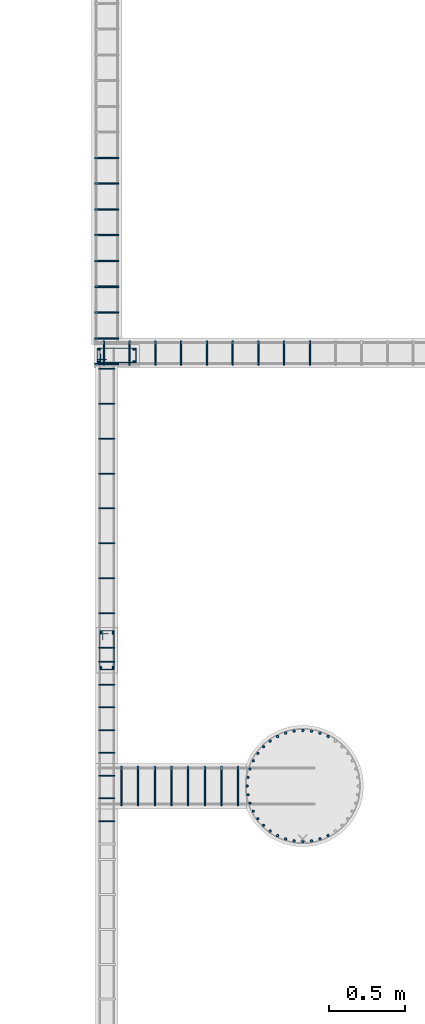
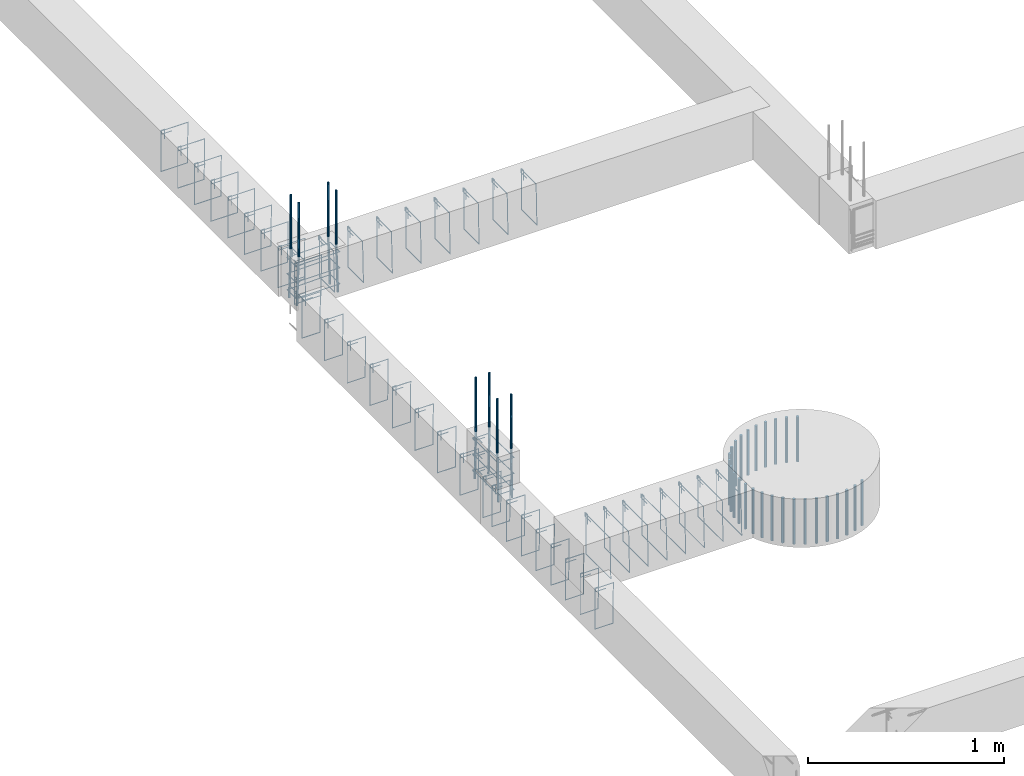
# One storey, part 39 of 150: 84 reinforcing bars.
"""IFC4 building model written with IfcOpenShell, lengths in centimetres."""

from ifc_helpers import new_model, entity, si_unit, derived_unit, frame, origin_with_axes, place, context, project, spatial, source, transform, mapped, element, save


model = new_model("IFC4")

# Units and contexts
model_context = context("Model", 3, precision=1e-05, world=origin_with_axes(), identifier="Body")
ifc_project = project(units=[si_unit("LENGTHUNIT", "METRE", prefix="CENTI"), si_unit("VOLUMEUNIT", "CUBIC_METRE"), si_unit("AREAUNIT", "SQUARE_METRE"), si_unit("POWERUNIT", "WATT"), si_unit("LUMINOUSFLUXUNIT", "LUMEN"), si_unit("ELECTRICCURRENTUNIT", "AMPERE"), si_unit("PRESSUREUNIT", "PASCAL", prefix="KILO"), si_unit("MASSUNIT", "GRAM", prefix="KILO"), si_unit("PLANEANGLEUNIT", "RADIAN"), derived_unit("VOLUMETRICFLOWRATEUNIT", [(si_unit("LENGTHUNIT", "METRE"), 3), (si_unit("TIMEUNIT", "SECOND"), -1)])], contexts=[model_context])

# Site, building, storey
site_placement = place(None, frame((-4000.0, 0.0, 0.0), z_axis=(0.0, 0.0, 1.0), x_axis=(1.0, 0.0, 0.0)))
site = spatial("IfcSite", under=ifc_project, at=site_placement, Name="PADRÃO")
building_placement = place(site_placement, frame((0.0, 0.0, -14.0)))
building = spatial("IfcBuilding", under=site, at=building_placement, Name="CRECHE PRÉ-ESCOLA TIPO 2")
placement = place(building_placement, origin_with_axes())
storey_placement = place(placement, frame((0.0, 0.0, 30.0), z_axis=(0.0, 0.0, 1.0), x_axis=(1.0, 0.0, 0.0)))
storey = spatial("IfcBuildingStorey", under=building, at=storey_placement, Name="VIGA BALDRAME", CompositionType="ELEMENT", Elevation=16.0)

# Reinforcing bars
shared_shape_1 = source(origin_with_axes(), model_context, "Body", "AdvancedSweptSolid", [
    entity("IfcSweptDiskSolid", entity("IfcCompositeCurve", [entity("IfcCompositeCurveSegment", "CONTINUOUS", True, entity("IfcPolyline", [entity("IfcCartesianPoint", [4.25, 21.75, 0.0]), entity("IfcCartesianPoint", [4.25, 27.75, 0.0])])), entity("IfcCompositeCurveSegment", "CONTINUOUS", True, entity("IfcPolyline", [entity("IfcCartesianPoint", [4.25, 27.75, 0.0]), entity("IfcCartesianPoint", [2.25, 27.75, 0.0])])), entity("IfcCompositeCurveSegment", "CONTINUOUS", True, entity("IfcPolyline", [entity("IfcCartesianPoint", [2.25, 27.75, 0.0]), entity("IfcCartesianPoint", [2.25, 2.25, 0.0])])), entity("IfcCompositeCurveSegment", "CONTINUOUS", True, entity("IfcPolyline", [entity("IfcCartesianPoint", [2.25, 2.25, 0.0]), entity("IfcCartesianPoint", [11.75, 2.25, 0.0])])), entity("IfcCompositeCurveSegment", "CONTINUOUS", True, entity("IfcPolyline", [entity("IfcCartesianPoint", [11.75, 2.25, 0.0]), entity("IfcCartesianPoint", [11.75, 27.75, -0.5])])), entity("IfcCompositeCurveSegment", "CONTINUOUS", True, entity("IfcPolyline", [entity("IfcCartesianPoint", [11.75, 27.75, -0.5]), entity("IfcCartesianPoint", [2.25, 27.75, -0.5])])), entity("IfcCompositeCurveSegment", "CONTINUOUS", True, entity("IfcPolyline", [entity("IfcCartesianPoint", [2.25, 27.75, -0.5]), entity("IfcCartesianPoint", [2.25, 25.75, -0.5])])), entity("IfcCompositeCurveSegment", "CONTINUOUS", True, entity("IfcPolyline", [entity("IfcCartesianPoint", [2.25, 25.75, -0.5]), entity("IfcCartesianPoint", [8.25, 25.75, -0.5])]))], False), 0.25),
])
for number, where, z_axis, x_axis, name in (
    (1, (2248.98, 304.02, -25.0), (0.0, 0.0, 1.0), (1.0, 0.0, 0.0), "P150 - Estribo"),
    (2, (2248.98, 304.02, -15.0), (0.0, 0.0, 1.0), (1.0, 0.0, 0.0), "P150 - Estribo"),
    (3, (2248.98, 304.02, -5.0), (0.0, 0.0, 1.0), (1.0, 0.0, 0.0), "P150 - Estribo"),
):
    element("IfcReinforcingBar", number, at=place(storey_placement, frame(where, z_axis=z_axis, x_axis=x_axis)), inside=storey, Name=name, BarLength=0.0, CrossSectionArea=1.9634954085e-05, NominalDiameter=0.5, PredefinedType="MAIN", context=model_context, shape_type="MappedRepresentation", body=[
        mapped(shared_shape_1, transform((0.0, 0.0, 0.0), scale=1.0)),
    ])
shared_shape_2 = source(origin_with_axes(), model_context, "Body", "AdvancedSweptSolid", [
    entity("IfcSweptDiskSolid", entity("IfcCompositeCurve", [entity("IfcCompositeCurveSegment", "CONTINUOUS", True, entity("IfcPolyline", [entity("IfcCartesianPoint", [4.25, 21.75, 0.0]), entity("IfcCartesianPoint", [4.25, 27.75, 0.0])])), entity("IfcCompositeCurveSegment", "CONTINUOUS", True, entity("IfcPolyline", [entity("IfcCartesianPoint", [4.25, 27.75, 0.0]), entity("IfcCartesianPoint", [2.25, 27.75, 0.0])])), entity("IfcCompositeCurveSegment", "CONTINUOUS", True, entity("IfcPolyline", [entity("IfcCartesianPoint", [2.25, 27.75, 0.0]), entity("IfcCartesianPoint", [2.25, 2.25, 0.0])])), entity("IfcCompositeCurveSegment", "CONTINUOUS", True, entity("IfcPolyline", [entity("IfcCartesianPoint", [2.25, 2.25, 0.0]), entity("IfcCartesianPoint", [11.75, 2.25, 0.0])])), entity("IfcCompositeCurveSegment", "CONTINUOUS", True, entity("IfcPolyline", [entity("IfcCartesianPoint", [11.75, 2.25, 0.0]), entity("IfcCartesianPoint", [11.75, 27.75, -0.5])])), entity("IfcCompositeCurveSegment", "CONTINUOUS", True, entity("IfcPolyline", [entity("IfcCartesianPoint", [11.75, 27.75, -0.5]), entity("IfcCartesianPoint", [2.25, 27.75, -0.5])])), entity("IfcCompositeCurveSegment", "CONTINUOUS", True, entity("IfcPolyline", [entity("IfcCartesianPoint", [2.25, 27.75, -0.5]), entity("IfcCartesianPoint", [2.25, 25.75, -0.5])])), entity("IfcCompositeCurveSegment", "CONTINUOUS", True, entity("IfcPolyline", [entity("IfcCartesianPoint", [2.25, 25.75, -0.5]), entity("IfcCartesianPoint", [8.25, 25.75, -0.5])]))], False), 0.25),
])
for number, where, z_axis, x_axis, name in (
    (4, (2277.48, 506.52, -5.0), (0.0, 0.0, 1.0), (0.0, 1.0, 0.0), "P139 - Estribo"),
    (5, (2277.48, 506.52, -15.0), (0.0, 0.0, 1.0), (0.0, 1.0, 0.0), "P139 - Estribo"),
    (6, (2277.48, 506.52, -25.0), (0.0, 0.0, 1.0), (0.0, 1.0, 0.0), "P139 - Estribo"),
):
    element("IfcReinforcingBar", number, at=place(storey_placement, frame(where, z_axis=z_axis, x_axis=x_axis)), inside=storey, Name=name, BarLength=0.0, CrossSectionArea=1.9634954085e-05, NominalDiameter=0.5, PredefinedType="MAIN", context=model_context, shape_type="MappedRepresentation", body=[
        mapped(shared_shape_2, transform((0.0, 0.0, 0.0), scale=1.0)),
    ])
shared_shape_3 = source(origin_with_axes(), model_context, "Body", "AdvancedSweptSolid", [
    entity("IfcSweptDiskSolid", entity("IfcCompositeCurve", [entity("IfcCompositeCurveSegment", "CONTINUOUS", True, entity("IfcPolyline", [entity("IfcCartesianPoint", [2.0, -6.0, 0.0]), entity("IfcCartesianPoint", [2.0, 0.0, 0.0])])), entity("IfcCompositeCurveSegment", "CONTINUOUS", True, entity("IfcPolyline", [entity("IfcCartesianPoint", [2.0, 0.0, 0.0]), entity("IfcCartesianPoint", [0.0, 0.0, 0.0])])), entity("IfcCompositeCurveSegment", "CONTINUOUS", True, entity("IfcPolyline", [entity("IfcCartesianPoint", [0.0, 0.0, 0.0]), entity("IfcCartesianPoint", [0.0, -25.5, 0.0])])), entity("IfcCompositeCurveSegment", "CONTINUOUS", True, entity("IfcPolyline", [entity("IfcCartesianPoint", [0.0, -25.5, 0.0]), entity("IfcCartesianPoint", [15.5, -25.5, 0.0])])), entity("IfcCompositeCurveSegment", "CONTINUOUS", True, entity("IfcPolyline", [entity("IfcCartesianPoint", [15.5, -25.5, 0.0]), entity("IfcCartesianPoint", [15.5, 0.0, 0.5])])), entity("IfcCompositeCurveSegment", "CONTINUOUS", True, entity("IfcPolyline", [entity("IfcCartesianPoint", [15.5, 0.0, 0.5]), entity("IfcCartesianPoint", [0.0, 0.0, 0.5])])), entity("IfcCompositeCurveSegment", "CONTINUOUS", True, entity("IfcPolyline", [entity("IfcCartesianPoint", [0.0, 0.0, 0.5]), entity("IfcCartesianPoint", [0.0, -2.0, 0.5])])), entity("IfcCompositeCurveSegment", "CONTINUOUS", True, entity("IfcPolyline", [entity("IfcCartesianPoint", [0.0, -2.0, 0.5]), entity("IfcCartesianPoint", [6.0, -2.0, 0.5])]))], False), 0.25),
])
for number, where, z_axis, x_axis, name in (
    (7, (2288.24, 522.77, -2.25), (-1.0, 0.0, 0.0), (0.0, -1.0, 0.0), "V151 - Estribo"),
    (8, (2322.24, 522.77, -2.25), (-1.0, 0.0, 0.0), (0.0, -1.0, 0.0), "V151 - Estribo"),
    (9, (2305.24, 522.77, -2.25), (-1.0, 0.0, 0.0), (0.0, -1.0, 0.0), "V151 - Estribo"),
    (10, (2356.24, 522.77, -2.25), (-1.0, 0.0, 0.0), (0.0, -1.0, 0.0), "V151 - Estribo"),
    (11, (2373.24, 522.77, -2.25), (-1.0, 0.0, 0.0), (0.0, -1.0, 0.0), "V151 - Estribo"),
    (12, (2390.24, 522.77, -2.25), (-1.0, 0.0, 0.0), (0.0, -1.0, 0.0), "V151 - Estribo"),
    (13, (2254.24, 522.77, -2.25), (-1.0, 0.0, 0.0), (0.0, -1.0, 0.0), "V151 - Estribo"),
    (14, (2339.24, 522.77, -2.25), (-1.0, 0.0, 0.0), (0.0, -1.0, 0.0), "V151 - Estribo"),
    (15, (2271.24, 522.77, -2.25), (-1.0, 0.0, 0.0), (0.0, -1.0, 0.0), "V151 - Estribo"),
):
    element("IfcReinforcingBar", number, at=place(storey_placement, frame(where, z_axis=z_axis, x_axis=x_axis)), inside=storey, Name=name, BarLength=0.0, CrossSectionArea=1.9634954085e-05, NominalDiameter=0.5, PredefinedType="MAIN", context=model_context, shape_type="MappedRepresentation", body=[
        mapped(shared_shape_3, transform((0.0, 0.0, 0.0), scale=1.0)),
    ])
shared_shape_4 = source(origin_with_axes(), model_context, "Body", "AdvancedSweptSolid", [
    entity("IfcSweptDiskSolid", entity("IfcCompositeCurve", [entity("IfcCompositeCurveSegment", "CONTINUOUS", True, entity("IfcPolyline", [entity("IfcCartesianPoint", [2.0, -6.0, 0.0]), entity("IfcCartesianPoint", [2.0, 0.0, 0.0])])), entity("IfcCompositeCurveSegment", "CONTINUOUS", True, entity("IfcPolyline", [entity("IfcCartesianPoint", [2.0, 0.0, 0.0]), entity("IfcCartesianPoint", [0.0, 0.0, 0.0])])), entity("IfcCompositeCurveSegment", "CONTINUOUS", True, entity("IfcPolyline", [entity("IfcCartesianPoint", [0.0, 0.0, 0.0]), entity("IfcCartesianPoint", [0.0, -25.5, 0.0])])), entity("IfcCompositeCurveSegment", "CONTINUOUS", True, entity("IfcPolyline", [entity("IfcCartesianPoint", [0.0, -25.5, 0.0]), entity("IfcCartesianPoint", [15.5, -25.5, 0.0])])), entity("IfcCompositeCurveSegment", "CONTINUOUS", True, entity("IfcPolyline", [entity("IfcCartesianPoint", [15.5, -25.5, 0.0]), entity("IfcCartesianPoint", [15.5, 0.0, 0.5])])), entity("IfcCompositeCurveSegment", "CONTINUOUS", True, entity("IfcPolyline", [entity("IfcCartesianPoint", [15.5, 0.0, 0.5]), entity("IfcCartesianPoint", [0.0, 0.0, 0.5])])), entity("IfcCompositeCurveSegment", "CONTINUOUS", True, entity("IfcPolyline", [entity("IfcCartesianPoint", [0.0, 0.0, 0.5]), entity("IfcCartesianPoint", [0.0, -2.0, 0.5])])), entity("IfcCompositeCurveSegment", "CONTINUOUS", True, entity("IfcPolyline", [entity("IfcCartesianPoint", [0.0, -2.0, 0.5]), entity("IfcCartesianPoint", [6.0, -2.0, 0.5])]))], False), 0.25),
])
for number, where, z_axis, x_axis, name in (
    (16, (2248.22957912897, 508.020261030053, -2.25), (-3.367003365e-05, -1.0, 0.0), (1.0, -3.367003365e-05, 0.0), "V190 - Estribo"),
    (17, (2248.23015151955, 525.020261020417, -2.25), (-3.367003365e-05, -1.0, 0.0), (1.0, -3.367003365e-05, 0.0), "V190 - Estribo"),
    (18, (2248.23072391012, 542.020261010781, -2.25), (-3.367003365e-05, -1.0, 0.0), (1.0, -3.367003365e-05, 0.0), "V190 - Estribo"),
    (19, (2248.23129630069, 559.020261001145, -2.25), (-3.367003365e-05, -1.0, 0.0), (1.0, -3.367003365e-05, 0.0), "V190 - Estribo"),
    (20, (2248.23186869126, 576.020260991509, -2.25), (-3.367003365e-05, -1.0, 0.0), (1.0, -3.367003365e-05, 0.0), "V190 - Estribo"),
    (21, (2248.23244108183, 593.020260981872, -2.25), (-3.367003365e-05, -1.0, 0.0), (1.0, -3.367003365e-05, 0.0), "V190 - Estribo"),
    (22, (2248.23301347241, 610.020260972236, -2.25), (-3.367003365e-05, -1.0, 0.0), (1.0, -3.367003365e-05, 0.0), "V190 - Estribo"),
    (23, (2248.23358586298, 627.0202609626, -2.25), (-3.367003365e-05, -1.0, 0.0), (1.0, -3.367003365e-05, 0.0), "V190 - Estribo"),
    (24, (2248.23415825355, 644.020260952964, -2.25), (-3.367003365e-05, -1.0, 0.0), (1.0, -3.367003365e-05, 0.0), "V190 - Estribo"),
):
    element("IfcReinforcingBar", number, at=place(storey_placement, frame(where, z_axis=z_axis, x_axis=x_axis)), inside=storey, Name=name, BarLength=0.0, CrossSectionArea=1.9634954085e-05, NominalDiameter=0.5, PredefinedType="MAIN", context=model_context, shape_type="MappedRepresentation", body=[
        mapped(shared_shape_4, transform((0.0, 0.0, 0.0), scale=1.0)),
    ])
shared_shape_5 = source(origin_with_axes(), model_context, "Body", "AdvancedSweptSolid", [
    entity("IfcSweptDiskSolid", entity("IfcCompositeCurve", [entity("IfcCompositeCurveSegment", "CONTINUOUS", True, entity("IfcPolyline", [entity("IfcCartesianPoint", [2.0, -6.0, 0.0]), entity("IfcCartesianPoint", [2.0, 0.0, 0.0])])), entity("IfcCompositeCurveSegment", "CONTINUOUS", True, entity("IfcPolyline", [entity("IfcCartesianPoint", [2.0, 0.0, 0.0]), entity("IfcCartesianPoint", [0.0, 0.0, 0.0])])), entity("IfcCompositeCurveSegment", "CONTINUOUS", True, entity("IfcPolyline", [entity("IfcCartesianPoint", [0.0, 0.0, 0.0]), entity("IfcCartesianPoint", [0.0, -25.5, 0.0])])), entity("IfcCompositeCurveSegment", "CONTINUOUS", True, entity("IfcPolyline", [entity("IfcCartesianPoint", [0.0, -25.5, 0.0]), entity("IfcCartesianPoint", [10.5, -25.5, 0.0])])), entity("IfcCompositeCurveSegment", "CONTINUOUS", True, entity("IfcPolyline", [entity("IfcCartesianPoint", [10.5, -25.5, 0.0]), entity("IfcCartesianPoint", [10.5, 0.0, 0.5])])), entity("IfcCompositeCurveSegment", "CONTINUOUS", True, entity("IfcPolyline", [entity("IfcCartesianPoint", [10.5, 0.0, 0.5]), entity("IfcCartesianPoint", [0.0, 0.0, 0.5])])), entity("IfcCompositeCurveSegment", "CONTINUOUS", True, entity("IfcPolyline", [entity("IfcCartesianPoint", [0.0, 0.0, 0.5]), entity("IfcCartesianPoint", [0.0, -2.0, 0.5])])), entity("IfcCompositeCurveSegment", "CONTINUOUS", True, entity("IfcPolyline", [entity("IfcCartesianPoint", [0.0, -2.0, 0.5]), entity("IfcCartesianPoint", [6.0, -2.0, 0.5])]))], False), 0.25),
])
for number, where, z_axis, x_axis, name in (
    (25, (2250.73, 221.52, -22.25), (0.0, -1.0, 0.0), (1.0, 0.0, 0.0), "V189 - Estribo"),
    (26, (2250.73, 251.52, -22.25), (0.0, -1.0, 0.0), (1.0, 0.0, 0.0), "V189 - Estribo"),
    (27, (2250.73, 266.52, -22.25), (0.0, -1.0, 0.0), (1.0, 0.0, 0.0), "V189 - Estribo"),
    (28, (2250.73, 281.52, -22.25), (0.0, -1.0, 0.0), (1.0, 0.0, 0.0), "V189 - Estribo"),
    (29, (2250.73, 296.52, -22.25), (0.0, -1.0, 0.0), (1.0, 0.0, 0.0), "V189 - Estribo"),
    (30, (2250.73, 311.52, -22.25), (0.0, -1.0, 0.0), (1.0, 0.0, 0.0), "V189 - Estribo"),
    (31, (2250.73, 236.52, -22.25), (0.0, -1.0, 0.0), (1.0, 0.0, 0.0), "V189 - Estribo"),
    (32, (2250.73, 206.52, -22.25), (0.0, -1.0, 0.0), (1.0, 0.0, 0.0), "V189 - Estribo"),
):
    element("IfcReinforcingBar", number, at=place(storey_placement, frame(where, z_axis=z_axis, x_axis=x_axis)), inside=storey, Name=name, BarLength=0.0, CrossSectionArea=1.9634954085e-05, NominalDiameter=0.5, PredefinedType="MAIN", context=model_context, shape_type="MappedRepresentation", body=[
        mapped(shared_shape_5, transform((0.0, 0.0, 0.0), scale=1.0)),
    ])
shared_shape_6 = source(origin_with_axes(), model_context, "Body", "AdvancedSweptSolid", [
    entity("IfcSweptDiskSolid", entity("IfcCompositeCurve", [entity("IfcCompositeCurveSegment", "CONTINUOUS", True, entity("IfcPolyline", [entity("IfcCartesianPoint", [2.0, -6.0, 0.0]), entity("IfcCartesianPoint", [2.0, 0.0, 0.0])])), entity("IfcCompositeCurveSegment", "CONTINUOUS", True, entity("IfcPolyline", [entity("IfcCartesianPoint", [2.0, 0.0, 0.0]), entity("IfcCartesianPoint", [0.0, 0.0, 0.0])])), entity("IfcCompositeCurveSegment", "CONTINUOUS", True, entity("IfcPolyline", [entity("IfcCartesianPoint", [0.0, 0.0, 0.0]), entity("IfcCartesianPoint", [0.0, -25.5, 0.0])])), entity("IfcCompositeCurveSegment", "CONTINUOUS", True, entity("IfcPolyline", [entity("IfcCartesianPoint", [0.0, -25.5, 0.0]), entity("IfcCartesianPoint", [10.5, -25.5, 0.0])])), entity("IfcCompositeCurveSegment", "CONTINUOUS", True, entity("IfcPolyline", [entity("IfcCartesianPoint", [10.5, -25.5, 0.0]), entity("IfcCartesianPoint", [10.5, 0.0, 0.5])])), entity("IfcCompositeCurveSegment", "CONTINUOUS", True, entity("IfcPolyline", [entity("IfcCartesianPoint", [10.5, 0.0, 0.5]), entity("IfcCartesianPoint", [0.0, 0.0, 0.5])])), entity("IfcCompositeCurveSegment", "CONTINUOUS", True, entity("IfcPolyline", [entity("IfcCartesianPoint", [0.0, 0.0, 0.5]), entity("IfcCartesianPoint", [0.0, -2.0, 0.5])])), entity("IfcCompositeCurveSegment", "CONTINUOUS", True, entity("IfcPolyline", [entity("IfcCartesianPoint", [0.0, -2.0, 0.5]), entity("IfcCartesianPoint", [6.0, -2.0, 0.5])]))], False), 0.25),
])
for number, where, z_axis, x_axis, name in (
    (33, (2250.73, 481.77, -22.25), (0.0, -1.0, 0.0), (1.0, 0.0, 0.0), "V189 - Estribo"),
    (34, (2250.73, 504.77, -22.25), (0.0, -1.0, 0.0), (1.0, 0.0, 0.0), "V189 - Estribo"),
    (35, (2250.73, 458.77, -22.25), (0.0, -1.0, 0.0), (1.0, 0.0, 0.0), "V189 - Estribo"),
    (36, (2250.73, 320.77, -22.25), (0.0, -1.0, 0.0), (1.0, 0.0, 0.0), "V189 - Estribo"),
    (37, (2250.73, 343.77, -22.25), (0.0, -1.0, 0.0), (1.0, 0.0, 0.0), "V189 - Estribo"),
    (38, (2250.73, 366.77, -22.25), (0.0, -1.0, 0.0), (1.0, 0.0, 0.0), "V189 - Estribo"),
    (39, (2250.73, 389.77, -22.25), (0.0, -1.0, 0.0), (1.0, 0.0, 0.0), "V189 - Estribo"),
    (40, (2250.73, 412.77, -22.25), (0.0, -1.0, 0.0), (1.0, 0.0, 0.0), "V189 - Estribo"),
    (41, (2250.73, 435.77, -22.25), (0.0, -1.0, 0.0), (1.0, 0.0, 0.0), "V189 - Estribo"),
):
    element("IfcReinforcingBar", number, at=place(storey_placement, frame(where, z_axis=z_axis, x_axis=x_axis)), inside=storey, Name=name, BarLength=0.0, CrossSectionArea=1.9634954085e-05, NominalDiameter=0.5, PredefinedType="MAIN", context=model_context, shape_type="MappedRepresentation", body=[
        mapped(shared_shape_6, transform((0.0, 0.0, 0.0), scale=1.0)),
    ])
shared_shape_7 = source(origin_with_axes(), model_context, "Body", "AdvancedSweptSolid", [
    entity("IfcSweptDiskSolid", entity("IfcCompositeCurve", [entity("IfcCompositeCurveSegment", "CONTINUOUS", True, entity("IfcPolyline", [entity("IfcCartesianPoint", [2.0, -6.0, 0.0]), entity("IfcCartesianPoint", [2.0, 0.0, 0.0])])), entity("IfcCompositeCurveSegment", "CONTINUOUS", True, entity("IfcPolyline", [entity("IfcCartesianPoint", [2.0, 0.0, 0.0]), entity("IfcCartesianPoint", [0.0, 0.0, 0.0])])), entity("IfcCompositeCurveSegment", "CONTINUOUS", True, entity("IfcPolyline", [entity("IfcCartesianPoint", [0.0, 0.0, 0.0]), entity("IfcCartesianPoint", [0.0, -25.5, 0.0])])), entity("IfcCompositeCurveSegment", "CONTINUOUS", True, entity("IfcPolyline", [entity("IfcCartesianPoint", [0.0, -25.5, 0.0]), entity("IfcCartesianPoint", [25.5, -25.5, 0.0])])), entity("IfcCompositeCurveSegment", "CONTINUOUS", True, entity("IfcPolyline", [entity("IfcCartesianPoint", [25.5, -25.5, 0.0]), entity("IfcCartesianPoint", [25.5, 0.0, 0.5])])), entity("IfcCompositeCurveSegment", "CONTINUOUS", True, entity("IfcPolyline", [entity("IfcCartesianPoint", [25.5, 0.0, 0.5]), entity("IfcCartesianPoint", [0.0, 0.0, 0.5])])), entity("IfcCompositeCurveSegment", "CONTINUOUS", True, entity("IfcPolyline", [entity("IfcCartesianPoint", [0.0, 0.0, 0.5]), entity("IfcCartesianPoint", [0.0, -2.0, 0.5])])), entity("IfcCompositeCurveSegment", "CONTINUOUS", True, entity("IfcPolyline", [entity("IfcCartesianPoint", [0.0, -2.0, 0.5]), entity("IfcCartesianPoint", [6.0, -2.0, 0.5])]))], False), 0.25),
])
for number, where, z_axis, x_axis, name in (
    (42, (2265.88, 242.14, -2.25), (-1.0, 0.0, 0.0), (0.0, -1.0, 0.0), "V156 - Estribo"),
    (43, (2276.88, 242.14, -2.25), (-1.0, 0.0, 0.0), (0.0, -1.0, 0.0), "V156 - Estribo"),
    (44, (2287.88, 242.14, -2.25), (-1.0, 0.0, 0.0), (0.0, -1.0, 0.0), "V156 - Estribo"),
    (45, (2298.88, 242.14, -2.25), (-1.0, 0.0, 0.0), (0.0, -1.0, 0.0), "V156 - Estribo"),
    (46, (2309.88, 242.14, -2.25), (-1.0, 0.0, 0.0), (0.0, -1.0, 0.0), "V156 - Estribo"),
    (47, (2320.88, 242.14, -2.25), (-1.0, 0.0, 0.0), (0.0, -1.0, 0.0), "V156 - Estribo"),
    (48, (2331.88, 242.14, -2.25), (-1.0, 0.0, 0.0), (0.0, -1.0, 0.0), "V156 - Estribo"),
    (49, (2342.88, 242.14, -2.25), (-1.0, 0.0, 0.0), (0.0, -1.0, 0.0), "V156 - Estribo"),
):
    element("IfcReinforcingBar", number, at=place(storey_placement, frame(where, z_axis=z_axis, x_axis=x_axis)), inside=storey, Name=name, BarLength=0.0, CrossSectionArea=1.9634954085e-05, NominalDiameter=0.5, PredefinedType="MAIN", context=model_context, shape_type="MappedRepresentation", body=[
        mapped(shared_shape_7, transform((0.0, 0.0, 0.0), scale=1.0)),
    ])
for number, where, z_axis, x_axis, name in (
    (50, (2250.98013877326, 509.52, 33.3573001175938), (0.0, 0.0, 1.0), (1.0, 0.0, 0.0), "P139 - Longitudinal"),
    (51, (2250.98013877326, 517.52, 33.3573001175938), (0.0, 0.0, 1.0), (1.0, 0.0, 0.0), "P139 - Longitudinal"),
):
    element("IfcReinforcingBar", number, at=place(storey_placement, frame(where, z_axis=z_axis, x_axis=x_axis)), inside=storey, Name=name, BarLength=0.0, CrossSectionArea=7.853981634e-05, NominalDiameter=1.0, PredefinedType="MAIN", context=model_context, shape_type="AdvancedSweptSolid", body=[
        entity("IfcSweptDiskSolid", entity("IfcCompositeCurve", [entity("IfcCompositeCurveSegment", "CONTINUOUS", True, entity("IfcPolyline", [entity("IfcCartesianPoint", [-0.500138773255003, 0.0, -63.3573001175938]), entity("IfcCartesianPoint", [0.499861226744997, 0.0, -33.3573001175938])])), entity("IfcCompositeCurveSegment", "CONTINUOUS", True, entity("IfcPolyline", [entity("IfcCartesianPoint", [0.499861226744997, 0.0, -33.3573001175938]), entity("IfcCartesianPoint", [0.499861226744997, 0.0, 0.0])]))], False), 0.5),
    ])
for number, where, z_axis, x_axis, name in (
    (52, (2273.97986122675, 517.52, 33.3573001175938), (0.0, 0.0, 1.0), (1.0, 0.0, 0.0), "P139 - Longitudinal"),
    (53, (2273.97986122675, 509.52, 33.3573001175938), (0.0, 0.0, 1.0), (1.0, 0.0, 0.0), "P139 - Longitudinal"),
):
    element("IfcReinforcingBar", number, at=place(storey_placement, frame(where, z_axis=z_axis, x_axis=x_axis)), inside=storey, Name=name, BarLength=0.0, CrossSectionArea=7.853981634e-05, NominalDiameter=1.0, PredefinedType="MAIN", context=model_context, shape_type="AdvancedSweptSolid", body=[
        entity("IfcSweptDiskSolid", entity("IfcCompositeCurve", [entity("IfcCompositeCurveSegment", "CONTINUOUS", True, entity("IfcPolyline", [entity("IfcCartesianPoint", [0.500138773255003, 0.0, -63.3573001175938]), entity("IfcCartesianPoint", [-0.499861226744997, 0.0, -33.3573001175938])])), entity("IfcCompositeCurveSegment", "CONTINUOUS", True, entity("IfcPolyline", [entity("IfcCartesianPoint", [-0.499861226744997, 0.0, -33.3573001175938]), entity("IfcCartesianPoint", [-0.499861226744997, 0.0, 0.0])]))], False), 0.5),
    ])
for number, where, z_axis, x_axis, name in (
    (54, (2251.98, 330.519861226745, 33.3573001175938), (0.0, 0.0, 1.0), (1.0, 0.0, 0.0), "P150 - Longitudinal"),
    (55, (2259.98, 330.519861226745, 33.3573001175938), (0.0, 0.0, 1.0), (1.0, 0.0, 0.0), "P150 - Longitudinal"),
):
    element("IfcReinforcingBar", number, at=place(storey_placement, frame(where, z_axis=z_axis, x_axis=x_axis)), inside=storey, Name=name, BarLength=0.0, CrossSectionArea=7.853981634e-05, NominalDiameter=1.0, PredefinedType="MAIN", context=model_context, shape_type="AdvancedSweptSolid", body=[
        entity("IfcSweptDiskSolid", entity("IfcCompositeCurve", [entity("IfcCompositeCurveSegment", "CONTINUOUS", True, entity("IfcPolyline", [entity("IfcCartesianPoint", [0.0, 0.50013877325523, -63.3573001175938]), entity("IfcCartesianPoint", [0.0, -0.49986122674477, -33.3573001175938])])), entity("IfcCompositeCurveSegment", "CONTINUOUS", True, entity("IfcPolyline", [entity("IfcCartesianPoint", [0.0, -0.49986122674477, -33.3573001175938]), entity("IfcCartesianPoint", [0.0, -0.49986122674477, 0.0])]))], False), 0.5),
    ])
for number, where, z_axis, x_axis, name in (
    (56, (2251.98, 307.520138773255, 33.3573001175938), (0.0, 0.0, 1.0), (1.0, 0.0, 0.0), "P150 - Longitudinal"),
    (57, (2259.98, 307.520138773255, 33.3573001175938), (0.0, 0.0, 1.0), (1.0, 0.0, 0.0), "P150 - Longitudinal"),
):
    element("IfcReinforcingBar", number, at=place(storey_placement, frame(where, z_axis=z_axis, x_axis=x_axis)), inside=storey, Name=name, BarLength=0.0, CrossSectionArea=7.853981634e-05, NominalDiameter=1.0, PredefinedType="MAIN", context=model_context, shape_type="AdvancedSweptSolid", body=[
        entity("IfcSweptDiskSolid", entity("IfcCompositeCurve", [entity("IfcCompositeCurveSegment", "CONTINUOUS", True, entity("IfcPolyline", [entity("IfcCartesianPoint", [0.0, -0.50013877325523, -63.3573001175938]), entity("IfcCartesianPoint", [0.0, 0.49986122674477, -33.3573001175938])])), entity("IfcCompositeCurveSegment", "CONTINUOUS", True, entity("IfcPolyline", [entity("IfcCartesianPoint", [0.0, 0.49986122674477, -33.3573001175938]), entity("IfcCartesianPoint", [0.0, 0.49986122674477, 0.0])]))], False), 0.5),
    ])
for number, where, z_axis, x_axis, name in (
    (58, (2349.03183790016, 223.648855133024, -2.0), (0.0, 0.0, 1.0), (1.0, 0.0, 0.0), "P151 - Longitudinal"),
    (59, (2350.37622585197, 218.04907630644, -2.0), (0.0, 0.0, 1.0), (1.0, 0.0, 0.0), "P151 - Longitudinal"),
    (60, (2352.58006056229, 212.728548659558, -2.0), (0.0, 0.0, 1.0), (1.0, 0.0, 0.0), "P151 - Longitudinal"),
    (61, (2355.58907630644, 207.818281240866, -2.0), (0.0, 0.0, 1.0), (1.0, 0.0, 0.0), "P151 - Longitudinal"),
    (62, (2359.32918113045, 203.439181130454, -2.0), (0.0, 0.0, 1.0), (1.0, 0.0, 0.0), "P151 - Longitudinal"),
    (63, (2363.70828124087, 199.699076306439, -2.0), (0.0, 0.0, 1.0), (1.0, 0.0, 0.0), "P151 - Longitudinal"),
    (64, (2379.53885513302, 193.141837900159, -2.0), (0.0, 0.0, 1.0), (1.0, 0.0, 0.0), "P151 - Longitudinal"),
    (65, (2368.61854865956, 196.690060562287, -2.0), (0.0, 0.0, 1.0), (1.0, 0.0, 0.0), "P151 - Longitudinal"),
    (66, (2373.93907630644, 194.486225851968, -2.0), (0.0, 0.0, 1.0), (1.0, 0.0, 0.0), "P151 - Longitudinal"),
    (67, (2373.93907630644, 264.293774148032, -2.0), (0.0, 0.0, 1.0), (1.0, 0.0, 0.0), "P151 - Longitudinal"),
    (68, (2385.28, 192.69, -2.0), (0.0, 0.0, 1.0), (1.0, 0.0, 0.0), "P151 - Longitudinal"),
    (69, (2396.62092369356, 194.486225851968, -2.0), (0.0, 0.0, 1.0), (1.0, 0.0, 0.0), "P151 - Longitudinal"),
    (70, (2401.94145134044, 196.690060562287, -2.0), (0.0, 0.0, 1.0), (1.0, 0.0, 0.0), "P151 - Longitudinal"),
    (71, (2391.02114486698, 193.141837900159, -2.0), (0.0, 0.0, 1.0), (1.0, 0.0, 0.0), "P151 - Longitudinal"),
    (72, (2401.94145134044, 262.089939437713, -2.0), (0.0, 0.0, 1.0), (1.0, 0.0, 0.0), "P151 - Longitudinal"),
    (73, (2396.62092369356, 264.293774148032, -2.0), (0.0, 0.0, 1.0), (1.0, 0.0, 0.0), "P151 - Longitudinal"),
    (74, (2391.02114486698, 265.638162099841, -2.0), (0.0, 0.0, 1.0), (1.0, 0.0, 0.0), "P151 - Longitudinal"),
    (75, (2385.28, 266.09, -2.0), (0.0, 0.0, 1.0), (1.0, 0.0, 0.0), "P151 - Longitudinal"),
    (76, (2379.53885513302, 265.638162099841, -2.0), (0.0, 0.0, 1.0), (1.0, 0.0, 0.0), "P151 - Longitudinal"),
    (77, (2368.61854865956, 262.089939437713, -2.0), (0.0, 0.0, 1.0), (1.0, 0.0, 0.0), "P151 - Longitudinal"),
    (78, (2363.70828124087, 259.080923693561, -2.0), (0.0, 0.0, 1.0), (1.0, 0.0, 0.0), "P151 - Longitudinal"),
    (79, (2359.32918113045, 255.340818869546, -2.0), (0.0, 0.0, 1.0), (1.0, 0.0, 0.0), "P151 - Longitudinal"),
    (80, (2355.58907630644, 250.961718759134, -2.0), (0.0, 0.0, 1.0), (1.0, 0.0, 0.0), "P151 - Longitudinal"),
    (81, (2352.58006056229, 246.051451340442, -2.0), (0.0, 0.0, 1.0), (1.0, 0.0, 0.0), "P151 - Longitudinal"),
    (82, (2350.37622585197, 240.73092369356, -2.0), (0.0, 0.0, 1.0), (1.0, 0.0, 0.0), "P151 - Longitudinal"),
    (83, (2349.03183790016, 235.131144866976, -2.0), (0.0, 0.0, 1.0), (1.0, 0.0, 0.0), "P151 - Longitudinal"),
    (84, (2348.58, 229.39, -2.0), (0.0, 0.0, 1.0), (1.0, 0.0, 0.0), "P151 - Longitudinal"),
):
    element("IfcReinforcingBar", number, at=place(storey_placement, frame(where, z_axis=z_axis, x_axis=x_axis)), inside=storey, Name=name, BarLength=0.0, CrossSectionArea=0.00020106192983, NominalDiameter=1.6, PredefinedType="MAIN", context=model_context, shape_type="AdvancedSweptSolid", body=[
        entity("IfcSweptDiskSolid", entity("IfcCompositeCurve", [entity("IfcCompositeCurveSegment", "CONTINUOUS", True, entity("IfcPolyline", [entity("IfcCartesianPoint", [0.0, 0.0, -28.0]), entity("IfcCartesianPoint", [0.0, 0.0, 0.0])]))], False), 0.8),
    ])

save(model, "model.ifc")
